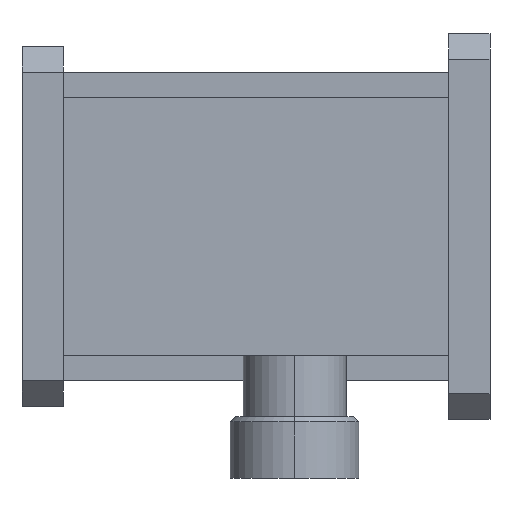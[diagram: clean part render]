
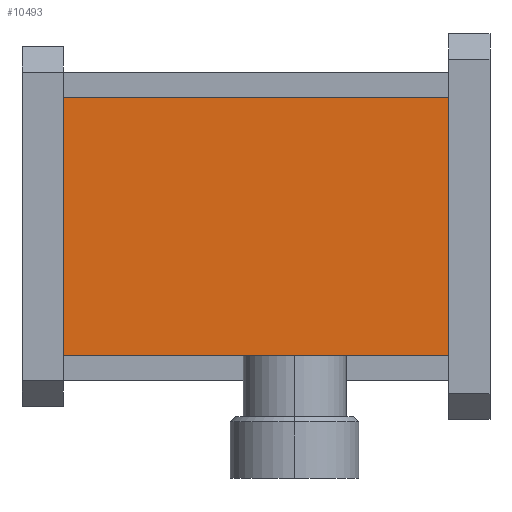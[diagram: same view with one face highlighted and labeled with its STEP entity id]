
A CAD part, left-side view. The second image highlights one B-rep face of the part: STEP entity #10493.
In plain terms, the highlighted planar face has unit normal (-1, 0, 0).
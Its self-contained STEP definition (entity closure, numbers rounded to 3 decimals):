
#655 = EDGE_CURVE ( 'NONE', #22186, #4620, #2338, .T. ) ;
#723 = VECTOR ( 'NONE', #7092, 1000. ) ;
#910 = EDGE_CURVE ( 'NONE', #1907, #4620, #4203, .T. ) ;
#1296 = VECTOR ( 'NONE', #1763, 1000. ) ;
#1763 = DIRECTION ( 'NONE',  ( 0., -1., 0. ) ) ;
#1907 = VERTEX_POINT ( 'NONE', #21402 ) ;
#2338 = LINE ( 'NONE', #13806, #6065 ) ;
#4203 = LINE ( 'NONE', #20885, #723 ) ;
#4620 = VERTEX_POINT ( 'NONE', #8784 ) ;
#5576 = VERTEX_POINT ( 'NONE', #16502 ) ;
#6065 = VECTOR ( 'NONE', #6812, 1000. ) ;
#6812 = DIRECTION ( 'NONE',  ( 0., 0., -1. ) ) ;
#7043 = LINE ( 'NONE', #13464, #9162 ) ;
#7092 = DIRECTION ( 'NONE',  ( 0., -1., 0. ) ) ;
#7299 = DIRECTION ( 'NONE',  ( 1., 0., 0. ) ) ;
#8158 = DIRECTION ( 'NONE',  ( 0., 0., 1. ) ) ;
#8670 = EDGE_CURVE ( 'NONE', #1907, #5576, #7043, .T. ) ;
#8784 = CARTESIAN_POINT ( 'NONE',  ( -30., 8., -25. ) ) ;
#9162 = VECTOR ( 'NONE', #8158, 1000. ) ;
#10183 = ORIENTED_EDGE ( 'NONE', *, *, #910, .T. ) ;
#10493 = ADVANCED_FACE ( 'NONE', ( #14716 ), #12368, .F. ) ;
#11930 = ORIENTED_EDGE ( 'NONE', *, *, #8670, .F. ) ;
#12221 = DIRECTION ( 'NONE',  ( 0., 0., -1. ) ) ;
#12368 = PLANE ( 'NONE',  #18758 ) ;
#12633 = CARTESIAN_POINT ( 'NONE',  ( -30., 8., 25. ) ) ;
#13464 = CARTESIAN_POINT ( 'NONE',  ( -30., 83., 30. ) ) ;
#13806 = CARTESIAN_POINT ( 'NONE',  ( -30., 8., 0. ) ) ;
#14716 = FACE_OUTER_BOUND ( 'NONE', #20455, .T. ) ;
#16502 = CARTESIAN_POINT ( 'NONE',  ( -30., 83., 25. ) ) ;
#18690 = CARTESIAN_POINT ( 'NONE',  ( -30., 83., 25. ) ) ;
#18758 = AXIS2_PLACEMENT_3D ( 'NONE', #19094, #7299, #12221 ) ;
#19094 = CARTESIAN_POINT ( 'NONE',  ( -30., 83., 30. ) ) ;
#20455 = EDGE_LOOP ( 'NONE', ( #20724, #11930, #10183, #21329 ) ) ;
#20724 = ORIENTED_EDGE ( 'NONE', *, *, #20772, .F. ) ;
#20772 = EDGE_CURVE ( 'NONE', #5576, #22186, #22203, .T. ) ;
#20885 = CARTESIAN_POINT ( 'NONE',  ( -30., 8., -25. ) ) ;
#21329 = ORIENTED_EDGE ( 'NONE', *, *, #655, .F. ) ;
#21402 = CARTESIAN_POINT ( 'NONE',  ( -30., 83., -25. ) ) ;
#22186 = VERTEX_POINT ( 'NONE', #12633 ) ;
#22203 = LINE ( 'NONE', #18690, #1296 ) ;
